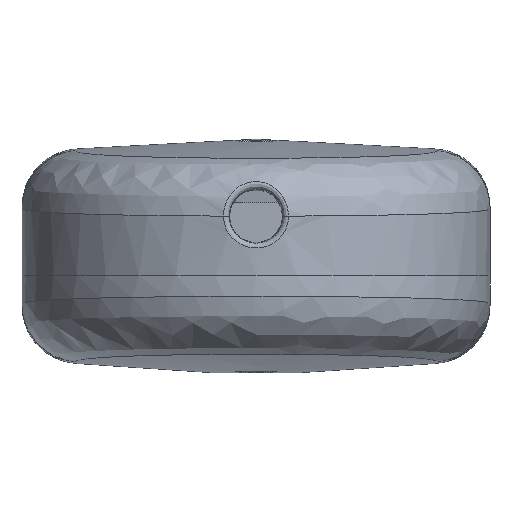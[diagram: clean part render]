
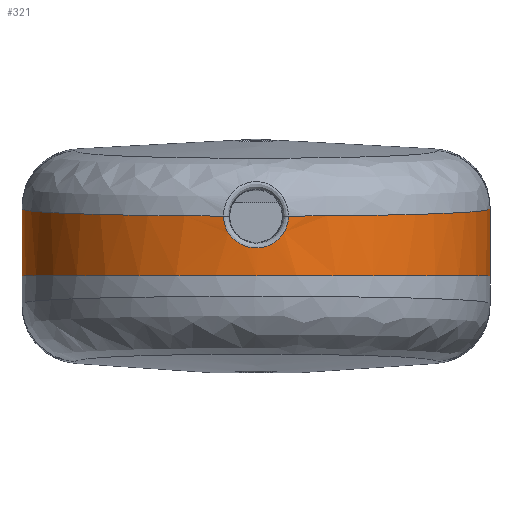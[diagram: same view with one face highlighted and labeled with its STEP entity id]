
A CAD part, front view. The second image highlights one B-rep face of the part: STEP entity #321.
In plain terms, the highlighted cylindrical face has radius 24 mm (diameter 48 mm), a partial arc.
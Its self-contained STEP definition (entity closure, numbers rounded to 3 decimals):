
#84=CYLINDRICAL_SURFACE('',#1742,24.);
#119=FACE_OUTER_BOUND('',#539,.T.);
#194=B_SPLINE_CURVE_WITH_KNOTS('',3,(#2220,#2221,#2222,#2223,#2224,#2225,
#2226,#2227),.UNSPECIFIED.,.F.,.F.,(4,2,2,4),(0.,0.25,0.5,1.),
 .UNSPECIFIED.);
#195=B_SPLINE_CURVE_WITH_KNOTS('',3,(#2230,#2231,#2232,#2233,#2234,#2235,
#2236,#2237,#2238,#2239,#2240,#2241,#2242,#2243,#2244,#2245,#2246,#2247,
#2248,#2249,#2250,#2251,#2252,#2253,#2254,#2255,#2256,#2257,#2258,#2259,
#2260),.UNSPECIFIED.,.F.,.F.,(4,3,3,3,3,3,3,3,3,3,4),(0.,0.106,
0.212,0.319,0.428,0.536,
0.642,0.749,0.856,0.963,
1.),.UNSPECIFIED.);
#196=B_SPLINE_CURVE_WITH_KNOTS('',3,(#2262,#2263,#2264,#2265,#2266,#2267,
#2268,#2269),.UNSPECIFIED.,.F.,.F.,(4,2,2,4),(0.,0.25,0.5,1.),
 .UNSPECIFIED.);
#321=ADVANCED_FACE('',(#119),#84,.T.);
#539=EDGE_LOOP('',(#826,#827,#828,#829,#830,#831));
#688=LINE('',#2211,#750);
#690=LINE('',#2270,#752);
#750=VECTOR('',#1890,1.);
#752=VECTOR('',#1894,1.);
#826=ORIENTED_EDGE('',*,*,#1455,.T.);
#827=ORIENTED_EDGE('',*,*,#1456,.T.);
#828=ORIENTED_EDGE('',*,*,#1457,.T.);
#829=ORIENTED_EDGE('',*,*,#1452,.T.);
#830=ORIENTED_EDGE('',*,*,#1445,.T.);
#831=ORIENTED_EDGE('',*,*,#1458,.F.);
#1283=VERTEX_POINT('',#2196);
#1284=VERTEX_POINT('',#2198);
#1290=VERTEX_POINT('',#2212);
#1292=VERTEX_POINT('',#2228);
#1293=VERTEX_POINT('',#2229);
#1294=VERTEX_POINT('',#2261);
#1445=EDGE_CURVE('',#1284,#1283,#1675,.T.);
#1452=EDGE_CURVE('',#1290,#1284,#688,.T.);
#1455=EDGE_CURVE('',#1292,#1293,#194,.T.);
#1456=EDGE_CURVE('',#1293,#1294,#195,.T.);
#1457=EDGE_CURVE('',#1294,#1290,#196,.T.);
#1458=EDGE_CURVE('',#1292,#1283,#690,.T.);
#1675=CIRCLE('',#1736,24.);
#1736=AXIS2_PLACEMENT_3D('',#2197,#1877,#1878);
#1742=AXIS2_PLACEMENT_3D('',#2271,#1895,#1896);
#1877=DIRECTION('',(0.,0.,1.));
#1878=DIRECTION('',(-1.,0.,0.));
#1890=DIRECTION('',(0.,0.,-1.));
#1894=DIRECTION('',(0.,0.,-1.));
#1895=DIRECTION('',(0.,0.,-1.));
#1896=DIRECTION('',(-1.,0.,0.));
#2196=CARTESIAN_POINT('',(24.,-9.,-2.));
#2197=CARTESIAN_POINT('',(0.,-9.,-2.));
#2198=CARTESIAN_POINT('',(-24.,-9.,-2.));
#2211=CARTESIAN_POINT('',(-24.,-9.,14.));
#2212=CARTESIAN_POINT('',(-24.,-9.,4.857));
#2220=CARTESIAN_POINT('',(24.,-9.,4.857));
#2221=CARTESIAN_POINT('',(24.,-11.889,4.756));
#2222=CARTESIAN_POINT('',(23.488,-14.709,4.661));
#2223=CARTESIAN_POINT('',(21.47,-20.105,4.488));
#2224=CARTESIAN_POINT('',(19.995,-22.581,4.411));
#2225=CARTESIAN_POINT('',(14.34,-29.084,4.217));
#2226=CARTESIAN_POINT('',(8.996,-31.974,4.14));
#2227=CARTESIAN_POINT('',(3.33,-32.768,4.118));
#2228=CARTESIAN_POINT('',(24.,-9.,4.857));
#2229=CARTESIAN_POINT('',(3.33,-32.768,4.118));
#2230=CARTESIAN_POINT('',(3.33,-32.768,4.118));
#2231=CARTESIAN_POINT('',(3.33,-32.768,3.754));
#2232=CARTESIAN_POINT('',(3.267,-32.777,3.385));
#2233=CARTESIAN_POINT('',(3.146,-32.793,3.042));
#2234=CARTESIAN_POINT('',(3.024,-32.809,2.698));
#2235=CARTESIAN_POINT('',(2.841,-32.832,2.371));
#2236=CARTESIAN_POINT('',(2.612,-32.857,2.087));
#2237=CARTESIAN_POINT('',(2.38,-32.883,1.8));
#2238=CARTESIAN_POINT('',(2.096,-32.91,1.549));
#2239=CARTESIAN_POINT('',(1.782,-32.934,1.354));
#2240=CARTESIAN_POINT('',(1.465,-32.957,1.158));
#2241=CARTESIAN_POINT('',(1.111,-32.977,1.013));
#2242=CARTESIAN_POINT('',(0.746,-32.988,0.931));
#2243=CARTESIAN_POINT('',(0.384,-33.,0.849));
#2244=CARTESIAN_POINT('',(0.003,-33.003,0.827));
#2245=CARTESIAN_POINT('',(-0.367,-32.997,0.867));
#2246=CARTESIAN_POINT('',(-0.733,-32.992,0.907));
#2247=CARTESIAN_POINT('',(-1.097,-32.977,1.009));
#2248=CARTESIAN_POINT('',(-1.431,-32.957,1.164));
#2249=CARTESIAN_POINT('',(-1.763,-32.937,1.319));
#2250=CARTESIAN_POINT('',(-2.074,-32.912,1.532));
#2251=CARTESIAN_POINT('',(-2.338,-32.886,1.787));
#2252=CARTESIAN_POINT('',(-2.602,-32.86,2.043));
#2253=CARTESIAN_POINT('',(-2.827,-32.834,2.348));
#2254=CARTESIAN_POINT('',(-2.991,-32.813,2.677));
#2255=CARTESIAN_POINT('',(-3.155,-32.792,3.005));
#2256=CARTESIAN_POINT('',(-3.264,-32.777,3.367));
#2257=CARTESIAN_POINT('',(-3.307,-32.771,3.731));
#2258=CARTESIAN_POINT('',(-3.323,-32.769,3.86));
#2259=CARTESIAN_POINT('',(-3.33,-32.768,3.989));
#2260=CARTESIAN_POINT('',(-3.33,-32.768,4.118));
#2261=CARTESIAN_POINT('',(-3.33,-32.768,4.118));
#2262=CARTESIAN_POINT('',(-3.33,-32.768,4.118));
#2263=CARTESIAN_POINT('',(-6.182,-32.368,4.129));
#2264=CARTESIAN_POINT('',(-8.921,-31.465,4.153));
#2265=CARTESIAN_POINT('',(-13.969,-28.726,4.23));
#2266=CARTESIAN_POINT('',(-16.228,-26.912,4.282));
#2267=CARTESIAN_POINT('',(-21.867,-20.43,4.476));
#2268=CARTESIAN_POINT('',(-24.,-14.776,4.655));
#2269=CARTESIAN_POINT('',(-24.,-9.,4.857));
#2270=CARTESIAN_POINT('',(24.,-9.,14.));
#2271=CARTESIAN_POINT('',(0.,-9.,14.));
